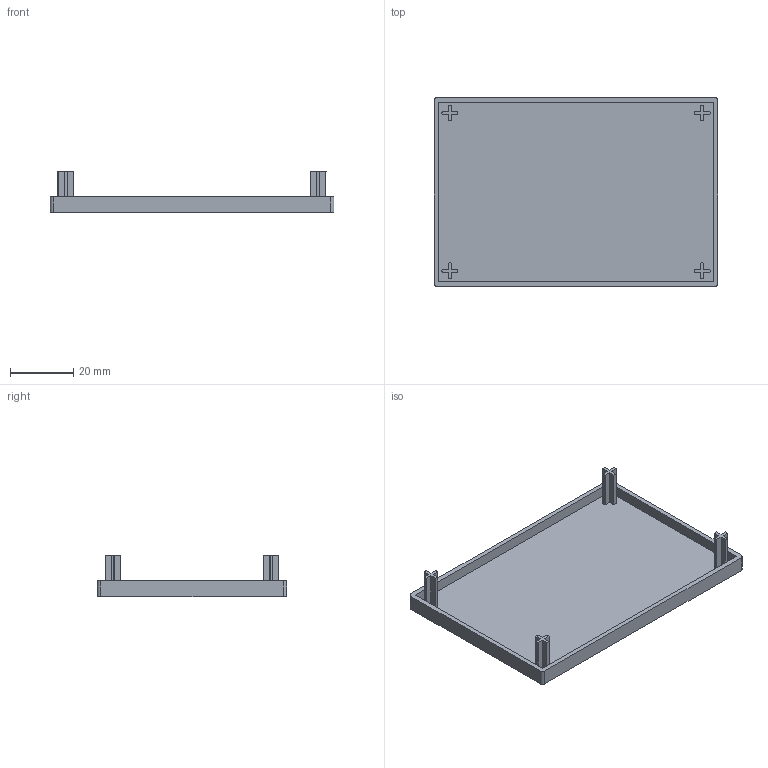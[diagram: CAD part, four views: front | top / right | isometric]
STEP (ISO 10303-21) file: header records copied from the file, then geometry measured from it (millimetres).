
FILE_DESCRIPTION (( 'STEP AP203' ), '1' );
FILE_NAME ('DEC6090.STEP', '2022-06-23T05:51:20', ( '' ), ( '' ), 'SwSTEP 2.0', 'SolidWorks 2017', '' );
FILE_SCHEMA (( 'CONFIG_CONTROL_DESIGN' ));
Length unit declared in the file: millimetre
Products named in the file (1): DEC6090
Bounding box: 90 x 60 x 13 mm (x, y, z)
Volume: 10041.1 mm3; surface area: 14197.3 mm2
Topology: 1 solids, 1 shells, 71 faces, 192 edges, 128 vertices
Faces by surface type: plane 47, cylinder 24
Entity records: 2311 total; most frequent: CARTESIAN_POINT 392, DIRECTION 384, ORIENTED_EDGE 384, EDGE_CURVE 192, VECTOR 144, LINE 144, VERTEX_POINT 128, AXIS2_PLACEMENT_3D 120
